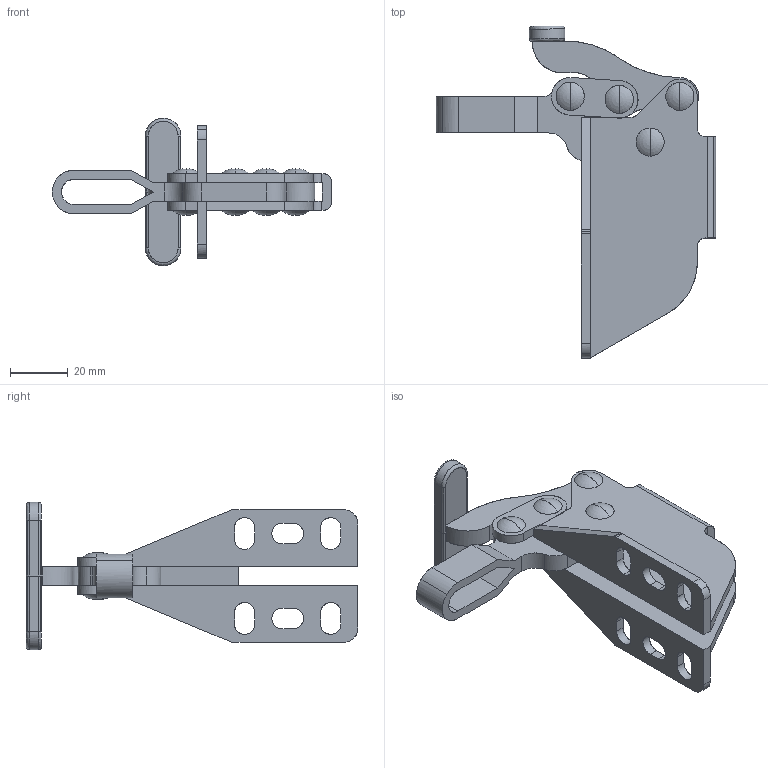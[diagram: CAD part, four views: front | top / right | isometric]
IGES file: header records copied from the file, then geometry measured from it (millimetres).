
Start section: Comment
Global section: file name: 13007sm.igs; native system:  By Spatial Corp.; preprocessor: XPlus PS/IGES 3.0; author: Author; organization: Title; date: 20050216.173802; units: inch
Bounding box: 96.69 x 114.85 x 50.99 mm (x, y, z)
Surface area: 34464.7 mm2 (no closed solid volume)
Topology: 0 solids, 0 shells, 252 faces, 1352 edges, 1332 vertices
Faces by surface type: revolution 152, extrusion 100
